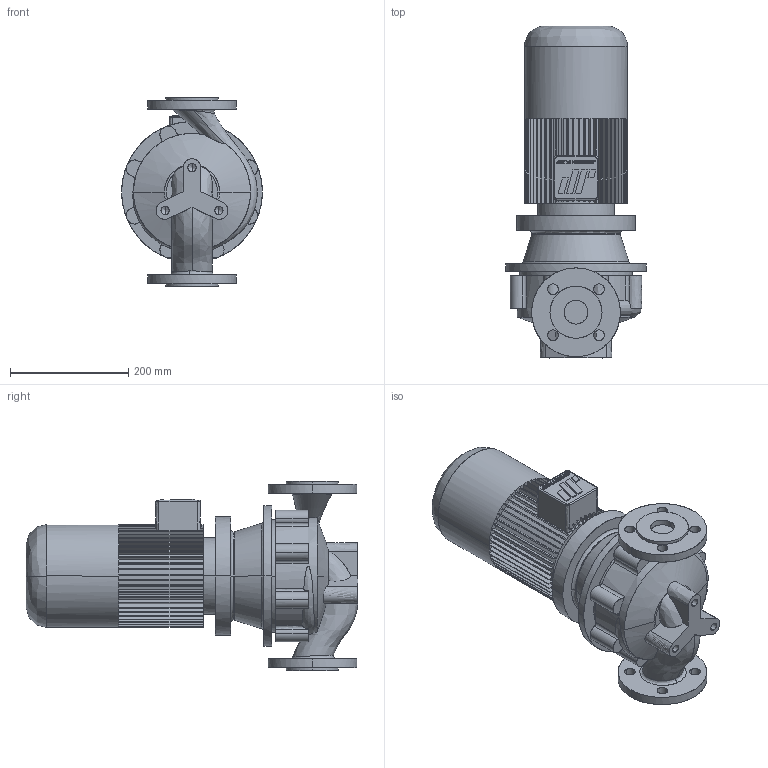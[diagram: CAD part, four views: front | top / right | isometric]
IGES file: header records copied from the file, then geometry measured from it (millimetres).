
Start section: CombiLine
Global section: file name: CLB_40-160_IEC90L_ND10.igs; native system:  By UGS Corp.; preprocessor: XPlus GENERIC/IGES 3.0; author: Stageplaats; organization: Johnson Pump Water B.V.; date: 20070716.105203; units: millimetre
Bounding box: 238 x 561 x 320 mm (x, y, z)
Surface area: 685795.5 mm2 (no closed solid volume)
Topology: 0 solids, 0 shells, 538 faces, 3279 edges, 3273 vertices
Faces by surface type: bspline 538
